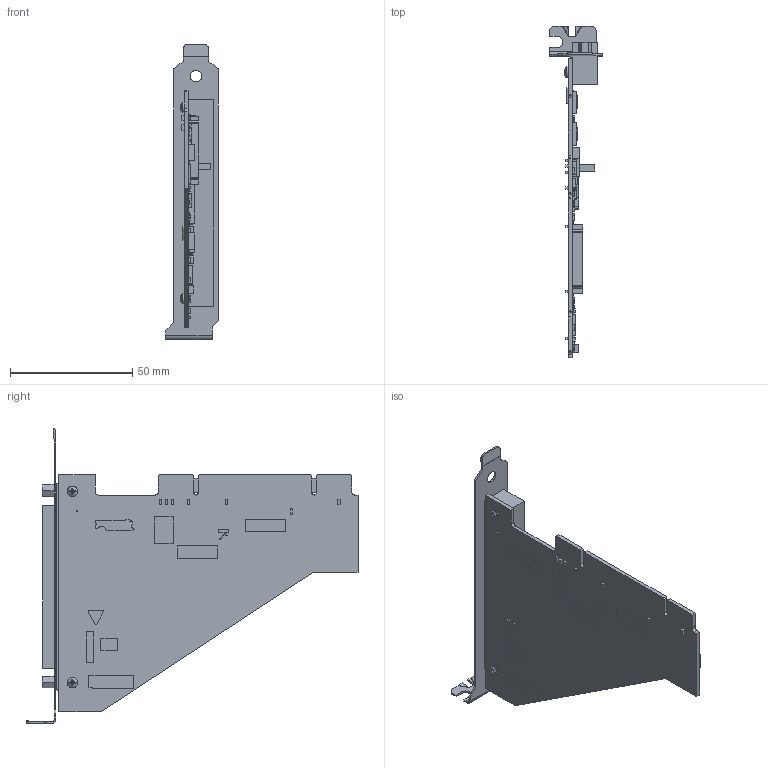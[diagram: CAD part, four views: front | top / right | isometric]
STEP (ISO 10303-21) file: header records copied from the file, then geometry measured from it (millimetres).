
FILE_DESCRIPTION((''),'2;1');
FILE_NAME('CU_PCI-6509_SW0001','2007-11-02T',('scarrasc'),(''),'PRO/ENGINEER BY PARAMETRIC TECHNOLOGY CORPORATION, 2006080','PRO/ENGINEER BY PARAMETRIC TECHNOLOGY CORPORATION, 2006080','');
FILE_SCHEMA(('CONFIG_CONTROL_DESIGN'));
Length unit declared in the file: inch
Products named in the file (1): CU_PCI-6509_SW0001
Bounding box: 21.59 x 135.73 x 120.78 mm (x, y, z)
Volume: 36093.7 mm3; surface area: 26959.7 mm2
Topology: 1 solids, 3 shells, 1390 faces, 3524 edges, 2320 vertices
Faces by surface type: plane 1280, cylinder 50, bspline 44, cone 8, torus 4, sphere 4
Entity records: 41910 total; most frequent: CARTESIAN_POINT 8444, ORIENTED_EDGE 7040, DIRECTION 6276, EDGE_CURVE 3520, VECTOR 3304, LINE 3304, VERTEX_POINT 2320, EDGE_LOOP 1584
